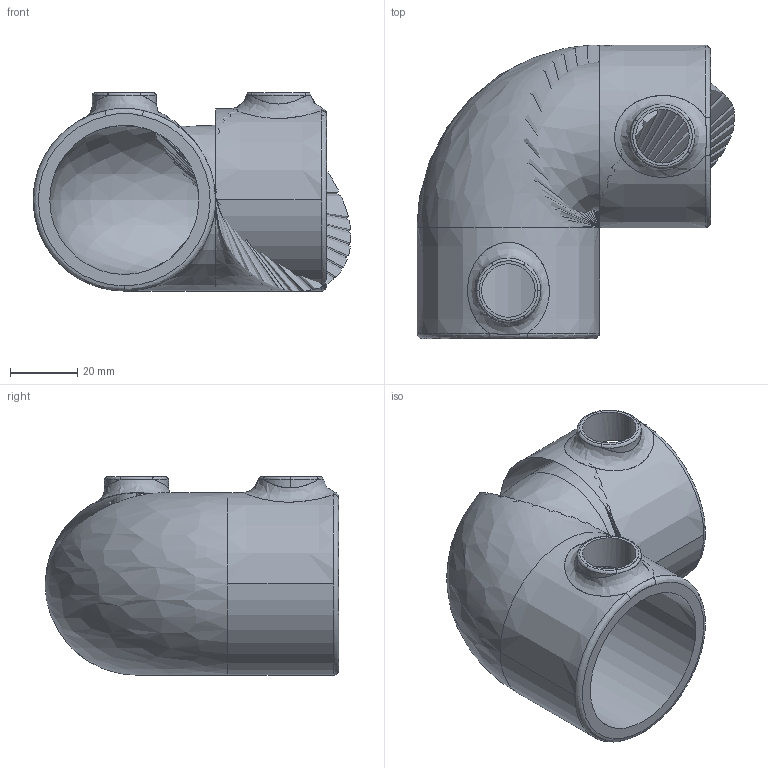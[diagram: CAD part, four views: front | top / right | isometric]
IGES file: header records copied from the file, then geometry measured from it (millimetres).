
Global section: file name: C:\Documents and Settings\Administrator\Desktop\Transfer Temp\15-7.igs; native system: AutoDesk Inventor R2.0 ; preprocessor: AutoDesk Inventor Iges Exporter R2.0; author: No Author specified; organization: No Organization specified; date: 20011231.175800; units: inch
Bounding box: 94.24 x 87 x 58.8 mm (x, y, z)
Surface area: 38890.3 mm2 (no closed solid volume)
Topology: 0 solids, 0 shells, 43 faces, 221 edges, 219 vertices
Faces by surface type: revolution 25, bspline 18
